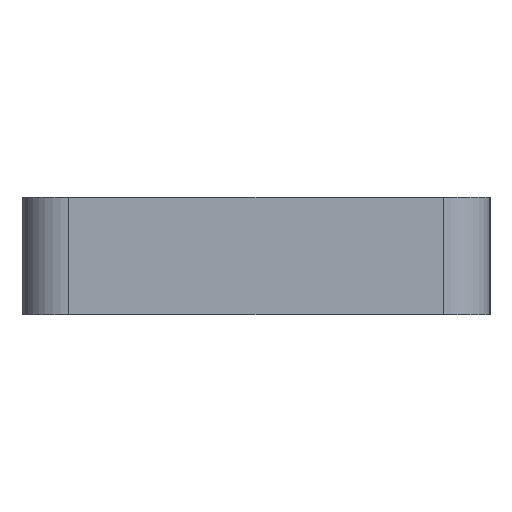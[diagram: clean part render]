
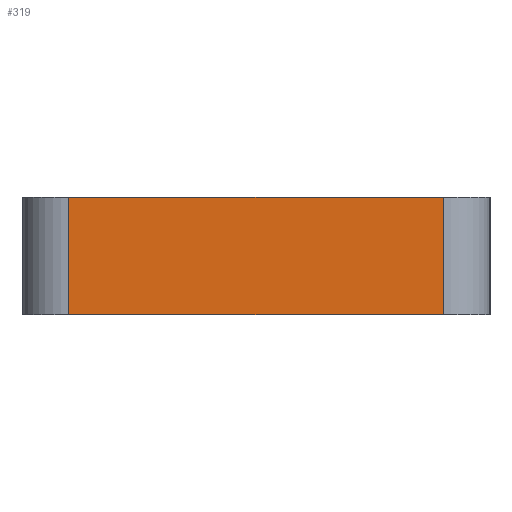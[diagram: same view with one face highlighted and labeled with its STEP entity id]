
A CAD part, left-side view. The second image highlights one B-rep face of the part: STEP entity #319.
In plain terms, the highlighted planar face has unit normal (-1, 0, 0).
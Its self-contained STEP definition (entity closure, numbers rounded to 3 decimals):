
#28=PLANE('',#375);
#42=FACE_OUTER_BOUND('',#57,.T.);
#57=EDGE_LOOP('',(#260,#261,#262,#263));
#88=LINE('',#558,#109);
#89=LINE('',#562,#110);
#90=LINE('',#564,#111);
#91=LINE('',#565,#112);
#109=VECTOR('',#462,10.);
#110=VECTOR('',#467,10.);
#111=VECTOR('',#468,10.);
#112=VECTOR('',#469,10.);
#163=VERTEX_POINT('',#555);
#164=VERTEX_POINT('',#557);
#165=VERTEX_POINT('',#561);
#166=VERTEX_POINT('',#563);
#204=EDGE_CURVE('',#164,#163,#88,.T.);
#206=EDGE_CURVE('',#163,#165,#89,.T.);
#207=EDGE_CURVE('',#166,#165,#90,.T.);
#208=EDGE_CURVE('',#166,#164,#91,.T.);
#260=ORIENTED_EDGE('',*,*,#206,.T.);
#261=ORIENTED_EDGE('',*,*,#207,.F.);
#262=ORIENTED_EDGE('',*,*,#208,.T.);
#263=ORIENTED_EDGE('',*,*,#204,.T.);
#319=ADVANCED_FACE('',(#42),#28,.T.);
#375=AXIS2_PLACEMENT_3D('',#560,#465,#466);
#462=DIRECTION('',(0.,0.,1.));
#465=DIRECTION('center_axis',(-1.,0.,0.));
#466=DIRECTION('ref_axis',(0.,0.,1.));
#467=DIRECTION('',(0.,1.,0.));
#468=DIRECTION('',(0.,0.,1.));
#469=DIRECTION('',(0.,-1.,0.));
#555=CARTESIAN_POINT('',(-12.936,-14.33,5.));
#557=CARTESIAN_POINT('',(-12.936,-14.33,0.));
#558=CARTESIAN_POINT('',(-12.936,-14.33,0.));
#560=CARTESIAN_POINT('Origin',(-12.936,-14.33,0.));
#561=CARTESIAN_POINT('',(-12.936,1.67,5.));
#562=CARTESIAN_POINT('',(-12.936,1.67,5.));
#563=CARTESIAN_POINT('',(-12.936,1.67,0.));
#564=CARTESIAN_POINT('',(-12.936,1.67,0.));
#565=CARTESIAN_POINT('',(-12.936,1.67,0.));
